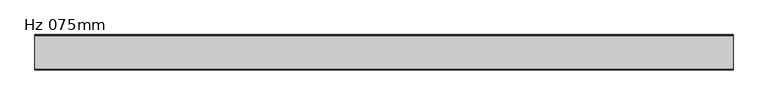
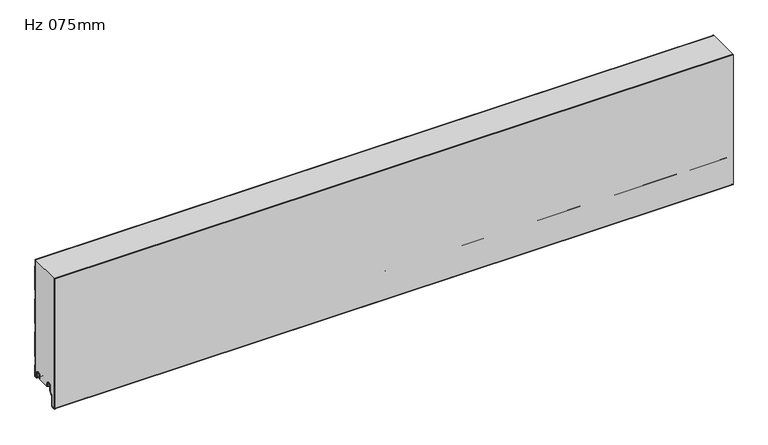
"""IFC4 building model written with IfcOpenShell, lengths in millimetres: plate geometry, KIP-MEX-KSS-1067-R19-CP-Hz-OP_SL : Hz 075mm."""

from ifc_helpers import new_model, si_unit, point, frame, frame_2d, origin, place, context, project, spatial, polyline, circle_curve, trimmed, segment, composite_curve, outline, extrude, source, transform, mapped, element, save
from ifc_brep_helpers import plane_surface, cylinder_surface, revolved_surface, advanced_brep


def hz_075mm_108744e1(model_context):
    return source(origin(), model_context, "Body", "SolidModel", [
        advanced_brep(
        [(-740.0, -17.0015159, 2.0313088), (-740.0, -18.0015191, 1.0313116), (-740.0, -19.0015105, 2.0313088), (-740.0, -19.0015105, 6.0315125), (-740.0, -18.0015159, 6.0315125), (-740.0, -18.0015159, 8.7237223), (-740.0, -14.7015202, 12.023718), (-740.0, -10.301529, 12.023718), (-740.0, -7.0015335, 8.7237225), (-740.0, -7.0015335, -1.6962564), (-740.0, -5.2315393, -3.4662506), (-740.0, -0.9999916, -3.4662506), (-740.0, -0.9999916, 21.034026), (-740.0, -2.2002307, 22.4196686), (-740.0, -2.2002307, 41.7948349), (-740.0, -1.0, 43.1804679), (-740.0, -1.0, 97.2338833), (-740.0, -2.2002307, 98.6195162), (-740.0, -2.2002307, 117.9946825), (-740.0, -1.0, 119.3803155), (-740.0, -1.0, 173.4337309), (-740.0, -2.2002307, 174.8193638), (-740.0, -2.2002307, 194.1945301), (-740.0, -1.0, 195.5801631), (-740.0, -1.0, 249.6335785), (-740.0, -2.2002307, 251.0192114), (-740.0, -2.2002307, 266.0), (-740.0, -1.2002307, 266.0), (-740.0, -1.2002307, 251.3920919), (-740.0, -0.3417885, 250.4010442), (-740.0, 0.0, 249.4844273), (-740.0, 0.0, 195.7293142), (-740.0, -0.3417885, 194.8126973), (-740.0, -1.2002307, 193.8216497), (-740.0, -1.2002307, 175.1922443), (-740.0, -0.3417885, 174.2011966), (-740.0, 0.0, 173.2845797), (-740.0, 0.0, 119.5294666), (-740.0, -0.3417885, 118.6128497), (-740.0, -1.2002307, 117.6218021), (-740.0, -1.2002307, 98.9923967), (-740.0, -0.3417885, 98.001349), (-740.0, 0.0, 97.0847321), (-740.0, 0.0, 43.329619), (-740.0, -0.3417885, 42.4130021), (-740.0, -1.2002307, 41.4219545), (-740.0, -1.2002307, 22.7925491), (-740.0, -0.3417885, 21.8015014), (-740.0, 0.0, 20.8847931), (-740.0, 8.4e-06, -3.0662545), (-740.0, -1.3999878, -4.4662506), (-740.0, -5.2315393, -4.4662506), (-740.0, -8.0015335, -1.6962564), (-740.0, -8.0015335, 8.7237225), (-740.0, -10.301529, 11.023718), (-740.0, -14.7015202, 11.023718), (-740.0, -17.0015159, 8.7237223), (740.0, -17.0015159, 2.0313088), (740.0, -17.0015159, 8.7237223), (740.0, -14.7015202, 11.023718), (740.0, -10.301529, 11.023718), (740.0, -8.0015335, 8.7237225), (740.0, -8.0015335, -1.6962564), (740.0, -5.2315393, -4.4662506), (740.0, -1.3999878, -4.4662506), (740.0, 8.4e-06, -3.0662545), (740.0, 8.4e-06, 20.8848845), (740.0, -0.3417885, 21.8015014), (740.0, -1.2002307, 22.7925491), (740.0, -1.2002307, 41.4219545), (740.0, -0.3417885, 42.4130021), (740.0, 0.0, 43.329619), (740.0, 0.0, 97.0847321), (740.0, -0.3417885, 98.001349), (740.0, -1.2002307, 98.9923967), (740.0, -1.2002307, 117.6218021), (740.0, -0.3417885, 118.6128497), (740.0, 0.0, 119.5294666), (740.0, 0.0, 173.2845797), (740.0, -0.3417885, 174.2011966), (740.0, -1.2002307, 175.1922443), (740.0, -1.2002307, 193.8216497), (740.0, -0.3417885, 194.8126973), (740.0, 0.0, 195.7293142), (740.0, 0.0, 249.4844273), (740.0, -0.3417885, 250.4010442), (740.0, -1.2002307, 251.3920919), (740.0, -1.2002307, 266.0), (740.0, -2.2002307, 266.0), (740.0, -2.2002307, 251.0192114), (740.0, -1.0, 249.6335785), (740.0, -1.0, 195.5801631), (740.0, -2.2002307, 194.1945301), (740.0, -2.2002307, 174.8193638), (740.0, -1.0, 173.4337309), (740.0, -1.0, 119.3803155), (740.0, -2.2002307, 117.9946825), (740.0, -2.2002307, 98.6195162), (740.0, -1.0, 97.2338833), (740.0, -1.0, 43.1804679), (740.0, -2.2002307, 41.7948349), (740.0, -2.2002307, 22.4196686), (740.0, -0.9999916, 21.034026), (740.0, -0.9999916, -3.4662506), (740.0, -5.2315393, -3.4662506), (740.0, -7.0015335, -1.6962564), (740.0, -7.0015335, 8.7237225), (740.0, -10.301529, 12.023718), (740.0, -14.7015202, 12.023718), (740.0, -18.0015159, 8.7237223), (740.0, -18.0015159, 6.0315125), (740.0, -19.0015105, 6.0315125), (740.0, -19.0015105, 2.0313088), (740.0, -18.0015192, 1.0313116)],
        [
            (0, 1, circle_curve(frame((-740.0, -18.0015132, 2.0313088), z_axis=(-1.0, 0.0, 0.0), x_axis=(0.0, 0.0, 1.0)), 0.9999973)),
            (1, 2, circle_curve(frame((-740.0, -18.0015133, 2.0313088), z_axis=(-1.0, 0.0, 0.0), x_axis=(0.0, 0.0, 1.0)), 0.9999972)),
            (2, 3),
            (3, 4),
            (4, 5),
            (5, 6, circle_curve(frame((-740.0, -14.7015202, 8.7237223), z_axis=(-1.0, 0.0, 0.0), x_axis=(0.0, 0.0, 1.0)), 3.2999957)),
            (6, 7),
            (7, 8, circle_curve(frame((-740.0, -10.301529, 8.7237225), z_axis=(-1.0, 0.0, 0.0), x_axis=(0.0, 0.0, 1.0)), 3.2999955)),
            (8, 9),
            (9, 10, circle_curve(frame((-740.0, -5.2315393, -1.6962564), z_axis=(1.0, 0.0, 0.0), x_axis=(0.0, 0.0, 1.0)), 1.7699942)),
            (10, 11),
            (11, 12),
            (12, 13),
            (13, 14),
            (14, 15),
            (15, 16),
            (16, 17),
            (17, 18),
            (18, 19),
            (19, 20),
            (20, 21),
            (21, 22),
            (22, 23),
            (23, 24),
            (24, 25),
            (25, 26),
            (26, 27),
            (27, 28),
            (28, 29),
            (29, 30, circle_curve(frame((-740.0, -1.3999972, 249.4844273), z_axis=(-1.0, 0.0, 0.0), x_axis=(0.0, 0.0, 1.0)), 1.3999972)),
            (30, 31),
            (31, 32, circle_curve(frame((-740.0, -1.3999972, 195.7293142), z_axis=(-1.0, 0.0, 0.0), x_axis=(0.0, 0.0, 1.0)), 1.3999972)),
            (32, 33),
            (33, 34),
            (34, 35),
            (35, 36, circle_curve(frame((-740.0, -1.3999972, 173.2845797), z_axis=(-1.0, 0.0, 0.0), x_axis=(0.0, 0.0, 1.0)), 1.3999972)),
            (36, 37),
            (37, 38, circle_curve(frame((-740.0, -1.3999972, 119.5294666), z_axis=(-1.0, 0.0, 0.0), x_axis=(0.0, 0.0, 1.0)), 1.3999972)),
            (38, 39),
            (39, 40),
            (40, 41),
            (41, 42, circle_curve(frame((-740.0, -1.3999972, 97.0847321), z_axis=(-1.0, 0.0, 0.0), x_axis=(0.0, 0.0, 1.0)), 1.3999972)),
            (42, 43),
            (43, 44, circle_curve(frame((-740.0, -1.3999972, 43.329619), z_axis=(-1.0, 0.0, 0.0), x_axis=(0.0, 0.0, 1.0)), 1.3999972)),
            (44, 45),
            (45, 46),
            (46, 47),
            (47, 48, circle_curve(frame((-740.0, -1.3999972, 20.8848845), z_axis=(-1.0, 0.0, 0.0), x_axis=(0.0, 0.0, 1.0)), 1.3999972)),
            (48, 49),
            (49, 50, circle_curve(frame((-740.0, -1.3999878, -3.0662545), z_axis=(-1.0, 0.0, 0.0), x_axis=(0.0, 0.0, 1.0)), 1.3999962)),
            (50, 51),
            (51, 52, circle_curve(frame((-740.0, -5.2315393, -1.6962564), z_axis=(-1.0, 0.0, 0.0), x_axis=(0.0, 0.0, 1.0)), 2.7699942)),
            (52, 53),
            (53, 54, circle_curve(frame((-740.0, -10.301529, 8.7237225), z_axis=(1.0, 0.0, 0.0), x_axis=(0.0, 0.0, 1.0)), 2.2999955)),
            (54, 55),
            (55, 56, circle_curve(frame((-740.0, -14.7015202, 8.7237223), z_axis=(1.0, 0.0, 0.0), x_axis=(0.0, 0.0, 1.0)), 2.2999957)),
            (56, 0),
            (57, 58),
            (58, 59, circle_curve(frame((740.0, -14.7015202, 8.7237223), z_axis=(-1.0, 0.0, 0.0), x_axis=(0.0, 0.0, 1.0)), 2.2999957)),
            (59, 60),
            (60, 61, circle_curve(frame((740.0, -10.301529, 8.7237225), z_axis=(-1.0, 0.0, 0.0), x_axis=(0.0, 0.0, 1.0)), 2.2999955)),
            (61, 62),
            (62, 63, circle_curve(frame((740.0, -5.2315393, -1.6962564), z_axis=(1.0, 0.0, 0.0), x_axis=(0.0, 0.0, 1.0)), 2.7699942)),
            (63, 64),
            (64, 65, circle_curve(frame((740.0, -1.3999878, -3.0662545), z_axis=(1.0, 0.0, 0.0), x_axis=(0.0, 0.0, 1.0)), 1.3999962)),
            (65, 66),
            (66, 67, circle_curve(frame((740.0, -1.3999972, 20.8848845), z_axis=(1.0, 0.0, 0.0), x_axis=(0.0, 0.0, 1.0)), 1.3999972)),
            (67, 68),
            (68, 69),
            (69, 70),
            (70, 71, circle_curve(frame((740.0, -1.3999972, 43.329619), z_axis=(1.0, 0.0, 0.0), x_axis=(0.0, 0.0, 1.0)), 1.3999972)),
            (71, 72),
            (72, 73, circle_curve(frame((740.0, -1.3999972, 97.0847321), z_axis=(1.0, 0.0, 0.0), x_axis=(0.0, 0.0, 1.0)), 1.3999972)),
            (73, 74),
            (74, 75),
            (75, 76),
            (76, 77, circle_curve(frame((740.0, -1.3999972, 119.5294666), z_axis=(1.0, 0.0, 0.0), x_axis=(0.0, 0.0, 1.0)), 1.3999972)),
            (77, 78),
            (78, 79, circle_curve(frame((740.0, -1.3999972, 173.2845797), z_axis=(1.0, 0.0, 0.0), x_axis=(0.0, 0.0, 1.0)), 1.3999972)),
            (79, 80),
            (80, 81),
            (81, 82),
            (82, 83, circle_curve(frame((740.0, -1.3999972, 195.7293142), z_axis=(1.0, 0.0, 0.0), x_axis=(0.0, 0.0, 1.0)), 1.3999972)),
            (83, 84),
            (84, 85, circle_curve(frame((740.0, -1.3999972, 249.4844273), z_axis=(1.0, 0.0, 0.0), x_axis=(0.0, 0.0, 1.0)), 1.3999972)),
            (85, 86),
            (86, 87),
            (87, 88),
            (88, 89),
            (89, 90),
            (90, 91),
            (91, 92),
            (92, 93),
            (93, 94),
            (94, 95),
            (95, 96),
            (96, 97),
            (97, 98),
            (98, 99),
            (99, 100),
            (100, 101),
            (101, 102),
            (102, 103),
            (103, 104),
            (104, 105, circle_curve(frame((740.0, -5.2315393, -1.6962564), z_axis=(-1.0, 0.0, 0.0), x_axis=(0.0, 0.0, 1.0)), 1.7699942)),
            (105, 106),
            (106, 107, circle_curve(frame((740.0, -10.301529, 8.7237225), z_axis=(1.0, 0.0, 0.0), x_axis=(0.0, 0.0, 1.0)), 3.2999955)),
            (107, 108),
            (108, 109, circle_curve(frame((740.0, -14.7015202, 8.7237223), z_axis=(1.0, 0.0, 0.0), x_axis=(0.0, 0.0, 1.0)), 3.2999957)),
            (109, 110),
            (110, 111),
            (111, 112),
            (112, 113, circle_curve(frame((740.0, -18.0015133, 2.0313088), z_axis=(1.0, 0.0, 0.0), x_axis=(0.0, 0.0, 1.0)), 0.9999972)),
            (113, 57, circle_curve(frame((740.0, -18.0015132, 2.0313088), z_axis=(1.0, 0.0, 0.0), x_axis=(0.0, 0.0, 1.0)), 0.9999973)),
            (56, 58),
            (57, 0),
            (55, 59),
            (54, 60),
            (53, 61),
            (52, 62),
            (51, 63),
            (50, 64),
            (49, 65),
            (48, 66),
            (47, 67),
            (46, 68),
            (45, 69),
            (44, 70),
            (43, 71),
            (42, 72),
            (41, 73),
            (40, 74),
            (39, 75),
            (38, 76),
            (37, 77),
            (36, 78),
            (35, 79),
            (34, 80),
            (33, 81),
            (32, 82),
            (31, 83),
            (30, 84),
            (29, 85),
            (28, 86),
            (27, 87),
            (88, 26),
            (25, 89),
            (24, 90),
            (23, 91),
            (22, 92),
            (21, 93),
            (20, 94),
            (19, 95),
            (18, 96),
            (17, 97),
            (16, 98),
            (15, 99),
            (14, 100),
            (13, 101),
            (12, 102),
            (11, 103),
            (10, 104),
            (9, 105),
            (8, 106),
            (7, 107),
            (6, 108),
            (5, 109),
            (4, 110),
            (3, 111),
            (2, 112),
            (1, 113),
        ],
        [
            plane_surface(frame((-740.0, 0.0, 533.4), z_axis=(-1.0, 0.0, 0.0), x_axis=(0.0, 1.0, 0.0))),
            plane_surface(frame((740.0, 0.0, 533.4), z_axis=(1.0, 0.0, 0.0), x_axis=(0.0, 1.0, 0.0))),
            plane_surface(frame((-740.0, -17.0015159, 2.0313088), z_axis=(0.0, 1.0, 0.0), x_axis=(1.0, 0.0, 0.0))),
            revolved_surface(polyline([(740.0, -14.7015202, 11.023718), (-740.0, -14.7015202, 11.023718)]), (-740.0, -14.7015202, 8.7237223), (1.0, 0.0, 0.0)),
            plane_surface(frame((-740.0, -14.7015202, 11.023718), z_axis=(0.0, 0.0, -1.0), x_axis=(1.0, 0.0, 0.0))),
            revolved_surface(polyline([(740.0, -10.301529, 11.023717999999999), (-740.0, -10.301529, 11.023717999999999)]), (-740.0, -10.301529, 8.7237225), (1.0, 0.0, 0.0)),
            plane_surface(frame((-740.0, -8.0015335, 8.7237225), z_axis=(0.0, -1.0, 0.0), x_axis=(1.0, 0.0, 0.0))),
            cylinder_surface(frame((-740.0, -5.2315393, -1.6962564), z_axis=(-1.0, 0.0, 0.0), x_axis=(0.0, 0.0, 1.0)), 2.7699942),
            plane_surface(frame((-740.0, -5.2315393, -4.4662506), z_axis=(0.0, 0.0, -1.0), x_axis=(1.0, 0.0, 0.0))),
            cylinder_surface(frame((-740.0, -1.3999878, -3.0662545), z_axis=(-1.0, 0.0, 0.0), x_axis=(0.0, 0.0, 1.0)), 1.3999962),
            plane_surface(frame((-740.0, 8.4e-06, -3.0662545), z_axis=(0.0, 1.0, 0.0), x_axis=(1.0, 0.0, 0.0))),
            cylinder_surface(frame((-740.0, -1.3999972, 20.8848845), z_axis=(-1.0, 0.0, 0.0), x_axis=(0.0, 0.0, 1.0)), 1.3999972),
            plane_surface(frame((-740.0, -0.3417885, 21.8015014), z_axis=(0.0, 0.755864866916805, 0.6547276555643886), x_axis=(1.0, 0.0, 0.0))),
            plane_surface(frame((-740.0, -1.2002307, 32.1072518), z_axis=(0.0, 1.0, 0.0), x_axis=(1.0, 0.0, 0.0))),
            plane_surface(frame((-740.0, -1.2002307, 41.4219545), z_axis=(0.0, 0.755864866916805, -0.6547276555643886), x_axis=(1.0, 0.0, 0.0))),
            cylinder_surface(frame((-740.0, -1.3999972, 43.329619), z_axis=(-1.0, 0.0, 0.0), x_axis=(0.0, 0.0, 1.0)), 1.3999972),
            plane_surface(frame((-740.0, 0.0, 43.329619), z_axis=(0.0, 1.0, 0.0), x_axis=(1.0, 0.0, 0.0))),
            cylinder_surface(frame((-740.0, -1.3999972, 97.0847321), z_axis=(-1.0, 0.0, 0.0), x_axis=(0.0, 0.0, 1.0)), 1.3999972),
            plane_surface(frame((-740.0, -0.3417885, 98.001349), z_axis=(0.0, 0.755864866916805, 0.6547276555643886), x_axis=(1.0, 0.0, 0.0))),
            plane_surface(frame((-740.0, -1.2002307, 108.3070994), z_axis=(0.0, 1.0, 0.0), x_axis=(1.0, 0.0, 0.0))),
            plane_surface(frame((-740.0, -1.2002307, 117.6218021), z_axis=(0.0, 0.755864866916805, -0.6547276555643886), x_axis=(1.0, 0.0, 0.0))),
            cylinder_surface(frame((-740.0, -1.3999972, 119.5294666), z_axis=(-1.0, 0.0, 0.0), x_axis=(0.0, 0.0, 1.0)), 1.3999972),
            plane_surface(frame((-740.0, 0.0, 119.5294666), z_axis=(0.0, 1.0, 0.0), x_axis=(1.0, 0.0, 0.0))),
            cylinder_surface(frame((-740.0, -1.3999972, 173.2845797), z_axis=(-1.0, 0.0, 0.0), x_axis=(0.0, 0.0, 1.0)), 1.3999972),
            plane_surface(frame((-740.0, -0.3417885, 174.2011966), z_axis=(0.0, 0.755864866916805, 0.6547276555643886), x_axis=(1.0, 0.0, 0.0))),
            plane_surface(frame((-740.0, -1.2002307, 184.506947), z_axis=(0.0, 1.0, 0.0), x_axis=(1.0, 0.0, 0.0))),
            plane_surface(frame((-740.0, -1.2002307, 193.8216497), z_axis=(0.0, 0.755864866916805, -0.6547276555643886), x_axis=(1.0, 0.0, 0.0))),
            cylinder_surface(frame((-740.0, -1.3999972, 195.7293142), z_axis=(-1.0, 0.0, 0.0), x_axis=(0.0, 0.0, 1.0)), 1.3999972),
            plane_surface(frame((-740.0, 0.0, 195.7293142), z_axis=(0.0, 1.0, 0.0), x_axis=(1.0, 0.0, 0.0))),
            cylinder_surface(frame((-740.0, -1.3999972, 249.4844273), z_axis=(-1.0, 0.0, 0.0), x_axis=(0.0, 0.0, 1.0)), 1.3999972),
            plane_surface(frame((-740.0, -0.3417885, 250.4010442), z_axis=(0.0, 0.755864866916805, 0.6547276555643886), x_axis=(1.0, 0.0, 0.0))),
            plane_surface(frame((-740.0, -1.2002307, 260.7067946), z_axis=(0.0, 1.0, 0.0), x_axis=(1.0, 0.0, 0.0))),
            plane_surface(frame((-740.0, -2.2002307, 270.3943777), z_axis=(0.0, -1.0, 0.0), x_axis=(1.0, 0.0, 0.0))),
            plane_surface(frame((-740.0, -2.2002307, 251.0192114), z_axis=(0.0, -0.755864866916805, -0.6547276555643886), x_axis=(1.0, 0.0, 0.0))),
            plane_surface(frame((-740.0, -1.0, 249.6335785), z_axis=(0.0, -1.0, 0.0), x_axis=(1.0, 0.0, 0.0))),
            plane_surface(frame((-740.0, -1.0, 195.5801631), z_axis=(0.0, -0.755864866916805, 0.6547276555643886), x_axis=(1.0, 0.0, 0.0))),
            plane_surface(frame((-740.0, -2.2002307, 194.1945301), z_axis=(0.0, -1.0, 0.0), x_axis=(1.0, 0.0, 0.0))),
            plane_surface(frame((-740.0, -2.2002307, 174.8193638), z_axis=(0.0, -0.755864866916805, -0.6547276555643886), x_axis=(1.0, 0.0, 0.0))),
            plane_surface(frame((-740.0, -1.0, 173.4337309), z_axis=(0.0, -1.0, 0.0), x_axis=(1.0, 0.0, 0.0))),
            plane_surface(frame((-740.0, -1.0, 119.3803155), z_axis=(0.0, -0.755864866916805, 0.6547276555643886), x_axis=(1.0, 0.0, 0.0))),
            plane_surface(frame((-740.0, -2.2002307, 117.9946825), z_axis=(0.0, -1.0, 0.0), x_axis=(1.0, 0.0, 0.0))),
            plane_surface(frame((-740.0, -2.2002307, 98.6195162), z_axis=(0.0, -0.755864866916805, -0.6547276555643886), x_axis=(1.0, 0.0, 0.0))),
            plane_surface(frame((-740.0, -1.0, 97.2338833), z_axis=(0.0, -1.0, 0.0), x_axis=(1.0, 0.0, 0.0))),
            plane_surface(frame((-740.0, -1.0, 43.1804679), z_axis=(0.0, -0.755864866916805, 0.6547276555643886), x_axis=(1.0, 0.0, 0.0))),
            plane_surface(frame((-740.0, -2.2002307, 41.7948349), z_axis=(0.0, -1.0, 0.0), x_axis=(1.0, 0.0, 0.0))),
            plane_surface(frame((-740.0, -2.2002307, 22.4196686), z_axis=(0.0, -0.755864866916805, -0.6547276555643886), x_axis=(1.0, 0.0, 0.0))),
            plane_surface(frame((-740.0, -0.9999916, 21.034026), z_axis=(0.0, -1.0, 0.0), x_axis=(1.0, 0.0, 0.0))),
            plane_surface(frame((-740.0, -0.9999916, -3.4662506), z_axis=(0.0, 0.0, 1.0), x_axis=(1.0, 0.0, 0.0))),
            revolved_surface(polyline([(740.0, -5.2315393, 0.07373779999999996), (-740.0, -5.2315393, 0.07373779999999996)]), (-740.0, -5.2315393, -1.6962564), (1.0, 0.0, 0.0)),
            plane_surface(frame((-740.0, -7.0015335, -1.6962564), z_axis=(0.0, 1.0, 0.0), x_axis=(1.0, 0.0, 0.0))),
            cylinder_surface(frame((-740.0, -10.301529, 8.7237225), z_axis=(-1.0, 0.0, 0.0), x_axis=(0.0, 0.0, 1.0)), 3.2999955),
            plane_surface(frame((-740.0, -10.301529, 12.023718), z_axis=(0.0, 0.0, 1.0), x_axis=(1.0, 0.0, 0.0))),
            cylinder_surface(frame((-740.0, -14.7015202, 8.7237223), z_axis=(-1.0, 0.0, 0.0), x_axis=(0.0, 0.0, 1.0)), 3.2999957),
            plane_surface(frame((-740.0, -18.0015159, 8.7237223), z_axis=(0.0, -1.0, 0.0), x_axis=(1.0, 0.0, 0.0))),
            plane_surface(frame((-740.0, -18.0015159, 6.0315125), z_axis=(0.0, 0.0, 1.0), x_axis=(1.0, 0.0, 0.0))),
            plane_surface(frame((-740.0, -19.0015105, 6.0315125), z_axis=(0.0, -1.0, 0.0), x_axis=(1.0, 0.0, 0.0))),
            cylinder_surface(frame((-740.0, -18.0015133, 2.0313088), z_axis=(-1.0, 0.0, 0.0), x_axis=(0.0, 0.0, 1.0)), 0.9999972),
            cylinder_surface(frame((-740.0, -18.0015132, 2.0313088), z_axis=(-1.0, 0.0, 0.0), x_axis=(0.0, 0.0, 1.0)), 0.9999973),
            plane_surface(frame((740.0, 10.0, 266.0), z_axis=(0.0, 0.0, 1.0), x_axis=(-1.0, 0.0, 0.0))),
        ],
        [
            (0, [[1, 2, 3, 4, 5, 6, 7, 8, 9, 10, 11, 12, 13, 14, 15, 16, 17, 18, 19, 20, 21, 22, 23, 24, 25, 26, 27, 28, 29, 30, 31, 32, 33, 34, 35, 36, 37, 38, 39, 40, 41, 42, 43, 44, 45, 46, 47, 48, 49, 50, 51, 52, 53, 54, 55, 56, 57]]),
            (1, [[58, 59, 60, 61, 62, 63, 64, 65, 66, 67, 68, 69, 70, 71, 72, 73, 74, 75, 76, 77, 78, 79, 80, 81, 82, 83, 84, 85, 86, 87, 88, 89, 90, 91, 92, 93, 94, 95, 96, 97, 98, 99, 100, 101, 102, 103, 104, 105, 106, 107, 108, 109, 110, 111, 112, 113, 114]]),
            (2, [[115, -58, 116, -57]]),
            (3, [[117, -59, -115, -56]]),
            (4, [[118, -60, -117, -55]]),
            (5, [[119, -61, -118, -54]]),
            (6, [[120, -62, -119, -53]]),
            (7, [[121, -63, -120, -52]]),
            (8, [[122, -64, -121, -51]]),
            (9, [[123, -65, -122, -50]]),
            (10, [[124, -66, -123, -49]]),
            (11, [[125, -67, -124, -48]]),
            (12, [[126, -68, -125, -47]]),
            (13, [[127, -69, -126, -46]]),
            (14, [[128, -70, -127, -45]]),
            (15, [[129, -71, -128, -44]]),
            (16, [[130, -72, -129, -43]]),
            (17, [[131, -73, -130, -42]]),
            (18, [[132, -74, -131, -41]]),
            (19, [[133, -75, -132, -40]]),
            (20, [[134, -76, -133, -39]]),
            (21, [[135, -77, -134, -38]]),
            (22, [[136, -78, -135, -37]]),
            (23, [[137, -79, -136, -36]]),
            (24, [[138, -80, -137, -35]]),
            (25, [[139, -81, -138, -34]]),
            (26, [[140, -82, -139, -33]]),
            (27, [[141, -83, -140, -32]]),
            (28, [[142, -84, -141, -31]]),
            (29, [[143, -85, -142, -30]]),
            (30, [[144, -86, -143, -29]]),
            (31, [[-28, 145, -87, -144]]),
            (32, [[-89, 146, -26, 147]]),
            (33, [[148, -90, -147, -25]]),
            (34, [[149, -91, -148, -24]]),
            (35, [[150, -92, -149, -23]]),
            (36, [[151, -93, -150, -22]]),
            (37, [[152, -94, -151, -21]]),
            (38, [[153, -95, -152, -20]]),
            (39, [[154, -96, -153, -19]]),
            (40, [[155, -97, -154, -18]]),
            (41, [[156, -98, -155, -17]]),
            (42, [[157, -99, -156, -16]]),
            (43, [[158, -100, -157, -15]]),
            (44, [[159, -101, -158, -14]]),
            (45, [[160, -102, -159, -13]]),
            (46, [[161, -103, -160, -12]]),
            (47, [[162, -104, -161, -11]]),
            (48, [[163, -105, -162, -10]]),
            (49, [[164, -106, -163, -9]]),
            (50, [[165, -107, -164, -8]]),
            (51, [[166, -108, -165, -7]]),
            (52, [[167, -109, -166, -6]]),
            (53, [[168, -110, -167, -5]]),
            (54, [[169, -111, -168, -4]]),
            (55, [[170, -112, -169, -3]]),
            (56, [[171, -113, -170, -2]]),
            (57, [[-116, -114, -171, -1]]),
            (58, [[-146, -88, -145, -27]]),
        ],
    ),
        extrude(outline(composite_curve([segment(trimmed(circle_curve(frame_2d((-71.4297607, -32.4521176)), 3.5702393), [point((-71.1184903, -36.008762))], [point((-75.0, -32.4521176))], False, "CARTESIAN"), True, "CONTINUOUS"), segment(polyline([(-75.0, -32.4521176), (-75.0, 266.0), (-73.9993606, 266.0), (-73.9993606, -32.509446)]), True, "CONTINUOUS"), segment(trimmed(circle_curve(frame_2d((-71.4297607, -32.4521176)), 2.5702393), [point((-73.9993606, -32.509446))], [point((-71.2056751, -35.0125699))], True, "CARTESIAN"), True, "CONTINUOUS"), segment(polyline([(-71.2056751, -35.0125699), (-66.2238542, -34.5765709)]), True, "CONTINUOUS"), segment(trimmed(circle_curve(frame_2d((-66.7052448, -31.9198392)), 2.6999926), [point((-66.2238542, -34.5765709))], [point((-64.0052522, -31.9198392))], True, "CARTESIAN"), True, "CONTINUOUS"), segment(polyline([(-64.0052522, -31.9198392), (-64.0052522, -9.8247096), (-58.5031811, -4.3226385)]), True, "CONTINUOUS"), segment(trimmed(circle_curve(frame_2d((-59.7052588, -3.1205608)), 1.6999946), [point((-58.5031811, -4.3226385))], [point((-58.0052642, -3.1205608))], True, "CARTESIAN"), True, "CONTINUOUS"), segment(polyline([(-58.0052642, -3.1205608), (-58.0052642, 8.6903283)]), True, "CONTINUOUS"), segment(trimmed(circle_curve(frame_2d((-54.6552689, 8.6903283)), 3.3499953), [point((-58.0052642, 8.6903283))], [point((-54.6552689, 12.0403236))], False, "CARTESIAN"), True, "CONTINUOUS"), segment(polyline([(-54.6552689, 12.0403236), (-50.2552777, 12.0403236)]), True, "CONTINUOUS"), segment(trimmed(circle_curve(frame_2d((-50.2552777, 8.6903283)), 3.3499953), [point((-50.2552777, 12.0403236))], [point((-46.9052824, 8.6903283))], False, "CARTESIAN"), True, "CONTINUOUS"), segment(polyline([(-46.9052824, 8.6903283), (-46.9052824, 5.9912173), (-45.5068035, 5.9912173), (-45.5068035, 2.2328239)]), True, "CONTINUOUS"), segment(trimmed(circle_curve(frame_2d((-46.7068002, 2.2313092)), 1.1999976), [point((-45.5068035, 2.2328239))], [point((-46.6762782, 1.0316999))], False, "CARTESIAN"), True, "CONTINUOUS"), segment(trimmed(circle_curve(frame_2d((-46.7068002, 2.2313092)), 1.1999976), [point((-46.6762782, 1.0316999))], [point((-47.9052824, 2.1710221))], False, "CARTESIAN"), True, "CONTINUOUS"), segment(polyline([(-47.9052824, 2.1710221), (-47.9052824, 8.6903283)]), True, "CONTINUOUS"), segment(trimmed(circle_curve(frame_2d((-50.2552777, 8.6903283)), 2.3499953), [point((-47.9052824, 8.6903283))], [point((-50.2552777, 11.0403236))], True, "CARTESIAN"), True, "CONTINUOUS"), segment(polyline([(-50.2552777, 11.0403236), (-54.6552689, 11.0403236)]), True, "CONTINUOUS"), segment(trimmed(circle_curve(frame_2d((-54.6552689, 8.6903283)), 2.3499953), [point((-54.6552689, 11.0403236))], [point((-57.0052642, 8.6903283))], True, "CARTESIAN"), True, "CONTINUOUS"), segment(polyline([(-57.0052642, 8.6903283), (-57.0052642, -3.1205608)]), True, "CONTINUOUS"), segment(trimmed(circle_curve(frame_2d((-59.7052588, -3.1205608)), 2.6999946), [point((-57.0052642, -3.1205608))], [point((-57.7960743, -5.0297453))], False, "CARTESIAN"), True, "CONTINUOUS"), segment(polyline([(-57.7960743, -5.0297453), (-62.6244918, -9.8581627)]), True, "CONTINUOUS"), segment(trimmed(circle_curve(frame_2d((-61.7052548, -10.7773997)), 1.2999974), [point((-62.6244918, -9.8581627))], [point((-63.0052522, -10.7773997))], True, "CARTESIAN"), True, "CONTINUOUS"), segment(polyline([(-63.0052522, -10.7773997), (-63.0052522, -31.9198392)]), True, "CONTINUOUS"), segment(trimmed(circle_curve(frame_2d((-66.7052448, -31.9198392)), 3.6999926), [point((-63.0052522, -31.9198392))], [point((-66.0944437, -35.5690675))], False, "CARTESIAN"), True, "CONTINUOUS"), segment(polyline([(-66.0944437, -35.5690675), (-71.1184903, -36.008762)]), True, "CONTINUOUS")], self_intersect=False)), frame((-740.0, 0.0, 0.0), z_axis=(1.0, 0.0, 0.0), x_axis=(0.0, 1.0, 0.0)), (0.0, 0.0, 1.0), 1480.0),
        advanced_brep(
        [(-740.0, -46.670875, 1.0316999), (-740.0, -45.5014003, 2.2328239), (-740.0, -45.5014003, 5.9912173), (-740.0, -46.8998791, 5.9912173), (-740.0, -46.8998791, 8.6903283), (-740.0, -50.2498744, 12.0403236), (-740.0, -54.6498656, 12.0403236), (-740.0, -57.9998609, 8.6903283), (-740.0, -57.9998609, -3.1205608), (-740.0, -58.4977778, -4.3226385), (-740.0, -63.9998489, -9.8247096), (-740.0, -63.9998489, -31.9198392), (-740.0, -66.2184509, -34.5765709), (-740.0, -71.2002718, -35.0125699), (-740.0, -73.9945967, -32.4521176), (-740.0, -74.0, 266.0), (-740.0, -2.2002307, 266.0), (-740.0, -2.2002307, 251.0192115), (-740.0, -1.0, 249.6335785), (-740.0, -1.0, 195.5801631), (-740.0, -2.2002307, 194.1945302), (-740.0, -2.2002307, 174.8193639), (-740.0, -1.0, 173.4337309), (-740.0, -1.0, 119.3803155), (-740.0, -2.2002307, 117.9946826), (-740.0, -2.2002307, 98.6195163), (-740.0, -1.0, 97.2338833), (-740.0, -1.0, 43.1804679), (-740.0, -2.2002307, 41.794835), (-740.0, -2.2002307, 22.4196687), (-740.0, -0.9999916, 21.034026), (-740.0, -0.9999916, -3.4662506), (-740.0, -5.2315389, -3.4662506), (-740.0, -7.0015331, -1.6962564), (-740.0, -7.0015331, 8.7237222), (-740.0, -10.301529, 12.023718), (-740.0, -14.7015202, 12.023718), (-740.0, -18.0015159, 8.7237223), (-740.0, -18.0015159, 6.0315125), (-740.0, -19.0015105, 6.0315125), (-740.0, -19.0015105, 2.0313089), (-740.0, -18.0015192, 1.0313117), (-740.0, -19.0328308, 0.0), (-740.0, -45.6391751, 0.0), (740.0, -46.670875, 1.0316999), (740.0, -45.6391751, 0.0), (740.0, -19.0328308, 0.0), (740.0, -18.0015192, 1.0313117), (740.0, -19.0015105, 2.0313089), (740.0, -19.0015105, 6.0315125), (740.0, -18.0015159, 6.0315125), (740.0, -18.0015159, 8.7237223), (740.0, -14.7015202, 12.023718), (740.0, -10.301529, 12.023718), (740.0, -7.0015331, 8.7237222), (740.0, -7.0015331, -1.6962564), (740.0, -5.2315389, -3.4662506), (740.0, -0.9999916, -3.4662506), (740.0, -0.9999916, 21.034026), (740.0, -2.2002307, 22.4196687), (740.0, -2.2002307, 41.794835), (740.0, -1.0, 43.1804679), (740.0, -1.0, 97.2338833), (740.0, -2.2002307, 98.6195163), (740.0, -2.2002307, 117.9946826), (740.0, -1.0, 119.3803155), (740.0, -1.0, 173.4337309), (740.0, -2.2002307, 174.8193639), (740.0, -2.2002307, 194.1945302), (740.0, -1.0, 195.5801631), (740.0, -1.0, 249.6335785), (740.0, -2.2002307, 251.0192115), (740.0, -2.2002307, 266.0), (740.0, -74.0, 266.0), (740.0, -74.0, -32.4521176), (740.0, -71.2002718, -35.0125699), (740.0, -66.2184509, -34.5765709), (740.0, -63.9998489, -31.9198392), (740.0, -63.9998489, -9.8247096), (740.0, -58.4977778, -4.3226385), (740.0, -57.9998609, -3.1205608), (740.0, -57.9998609, 8.6903283), (740.0, -54.6498656, 12.0403236), (740.0, -50.2498744, 12.0403236), (740.0, -46.8998791, 8.6903283), (740.0, -46.8998791, 5.9912173), (740.0, -45.5014003, 5.9912173), (740.0, -45.5014003, 2.2328239)],
        [
            (0, 1, circle_curve(frame((-740.0, -46.7013969, 2.2313092), z_axis=(1.0, 0.0, 0.0), x_axis=(0.0, 0.0, -1.0)), 1.1999976)),
            (1, 2),
            (2, 3),
            (3, 4),
            (4, 5, circle_curve(frame((-740.0, -50.2498744, 8.6903283), z_axis=(1.0, 0.0, 0.0), x_axis=(0.0, 0.0, -1.0)), 3.3499953)),
            (5, 6),
            (6, 7, circle_curve(frame((-740.0, -54.6498656, 8.6903283), z_axis=(1.0, 0.0, 0.0), x_axis=(0.0, 0.0, -1.0)), 3.3499953)),
            (7, 8),
            (8, 9, circle_curve(frame((-740.0, -59.6998555, -3.1205608), z_axis=(-1.0, 0.0, 0.0), x_axis=(0.0, 0.0, -1.0)), 1.6999946)),
            (9, 10),
            (10, 11),
            (11, 12, circle_curve(frame((-740.0, -66.6998415, -31.9198392), z_axis=(-1.0, 0.0, 0.0), x_axis=(0.0, 0.0, -1.0)), 2.6999926)),
            (12, 13),
            (13, 14, circle_curve(frame((-740.0, -71.4243575, -32.4521176), z_axis=(-1.0, 0.0, 0.0), x_axis=(0.0, 0.0, -1.0)), 2.5702393)),
            (14, 15),
            (15, 16),
            (16, 17),
            (17, 18),
            (18, 19),
            (19, 20),
            (20, 21),
            (21, 22),
            (22, 23),
            (23, 24),
            (24, 25),
            (25, 26),
            (26, 27),
            (27, 28),
            (28, 29),
            (29, 30),
            (30, 31),
            (31, 32),
            (32, 33, circle_curve(frame((-740.0, -5.2315389, -1.6962564), z_axis=(-1.0, 0.0, 0.0), x_axis=(0.0, 0.0, -1.0)), 1.7699942)),
            (33, 34),
            (34, 35, circle_curve(frame((-740.0, -10.301529, 8.7237222), z_axis=(1.0, 0.0, 0.0), x_axis=(0.0, 0.0, -1.0)), 3.2999959)),
            (35, 36),
            (36, 37, circle_curve(frame((-740.0, -14.7015202, 8.7237223), z_axis=(1.0, 0.0, 0.0), x_axis=(0.0, 0.0, -1.0)), 3.2999957)),
            (37, 38),
            (38, 39),
            (39, 40),
            (40, 41, circle_curve(frame((-740.0, -18.0015133, 2.0313089), z_axis=(1.0, 0.0, 0.0), x_axis=(0.0, 0.0, -1.0)), 0.9999972)),
            (41, 42),
            (42, 43),
            (43, 0),
            (44, 45),
            (45, 46),
            (46, 47),
            (47, 48, circle_curve(frame((740.0, -18.0015133, 2.0313089), z_axis=(-1.0, 0.0, 0.0), x_axis=(0.0, 0.0, -1.0)), 0.9999972)),
            (48, 49),
            (49, 50),
            (50, 51),
            (51, 52, circle_curve(frame((740.0, -14.7015202, 8.7237223), z_axis=(-1.0, 0.0, 0.0), x_axis=(0.0, 0.0, -1.0)), 3.2999957)),
            (52, 53),
            (53, 54, circle_curve(frame((740.0, -10.301529, 8.7237222), z_axis=(-1.0, 0.0, 0.0), x_axis=(0.0, 0.0, -1.0)), 3.2999959)),
            (54, 55),
            (55, 56, circle_curve(frame((740.0, -5.2315389, -1.6962564), z_axis=(1.0, 0.0, 0.0), x_axis=(0.0, 0.0, -1.0)), 1.7699942)),
            (56, 57),
            (57, 58),
            (58, 59),
            (59, 60),
            (60, 61),
            (61, 62),
            (62, 63),
            (63, 64),
            (64, 65),
            (65, 66),
            (66, 67),
            (67, 68),
            (68, 69),
            (69, 70),
            (70, 71),
            (71, 72),
            (72, 73),
            (73, 74),
            (74, 75, circle_curve(frame((740.0, -71.4243575, -32.4521176), z_axis=(1.0, 0.0, 0.0), x_axis=(0.0, 0.0, -1.0)), 2.5702393)),
            (75, 76),
            (76, 77, circle_curve(frame((740.0, -66.6998415, -31.9198392), z_axis=(1.0, 0.0, 0.0), x_axis=(0.0, 0.0, -1.0)), 2.6999926)),
            (77, 78),
            (78, 79),
            (79, 80, circle_curve(frame((740.0, -59.6998555, -3.1205608), z_axis=(1.0, 0.0, 0.0), x_axis=(0.0, 0.0, -1.0)), 1.6999946)),
            (80, 81),
            (81, 82, circle_curve(frame((740.0, -54.6498656, 8.6903283), z_axis=(-1.0, 0.0, 0.0), x_axis=(0.0, 0.0, -1.0)), 3.3499953)),
            (82, 83),
            (83, 84, circle_curve(frame((740.0, -50.2498744, 8.6903283), z_axis=(-1.0, 0.0, 0.0), x_axis=(0.0, 0.0, -1.0)), 3.3499953)),
            (84, 85),
            (85, 86),
            (86, 87),
            (87, 44, circle_curve(frame((740.0, -46.7013969, 2.2313092), z_axis=(-1.0, 0.0, 0.0), x_axis=(0.0, 0.0, -1.0)), 1.1999976)),
            (41, 47),
            (46, 42),
            (40, 48),
            (39, 49),
            (38, 50),
            (37, 51),
            (36, 52),
            (35, 53),
            (34, 54),
            (33, 55),
            (32, 56),
            (31, 57),
            (30, 58),
            (29, 59),
            (28, 60),
            (27, 61),
            (26, 62),
            (25, 63),
            (24, 64),
            (23, 65),
            (22, 66),
            (21, 67),
            (20, 68),
            (19, 69),
            (18, 70),
            (17, 71),
            (16, 72),
            (15, 73),
            (43, 45),
            (44, 0),
            (14, 74),
            (13, 75),
            (12, 76),
            (11, 77),
            (10, 78),
            (9, 79),
            (8, 80),
            (7, 81),
            (6, 82),
            (5, 83),
            (4, 84),
            (3, 85),
            (2, 86),
            (1, 87),
        ],
        [
            plane_surface(frame((-740.0, -74.0, 533.4), z_axis=(-1.0, 0.0, 0.0), x_axis=(0.0, -1.0, 0.0))),
            plane_surface(frame((740.0, -74.0, 533.4), z_axis=(1.0, 0.0, 0.0), x_axis=(0.0, -1.0, 0.0))),
            plane_surface(frame((-740.0, -19.0328308, 0.0), z_axis=(0.0, 0.7071067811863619, -0.7071067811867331), x_axis=(1.0, 0.0, 0.0))),
            revolved_surface(polyline([(740.0, -18.0015133, 1.0313116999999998), (-740.0, -18.0015133, 1.0313116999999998)]), (-740.0, -18.0015133, 2.0313089), (1.0, 0.0, 0.0)),
            plane_surface(frame((-740.0, -19.0015105, 2.0313089), z_axis=(0.0, 1.0, 0.0), x_axis=(1.0, 0.0, 0.0))),
            plane_surface(frame((-740.0, -19.0015105, 6.0315125), z_axis=(0.0, 0.0, -1.0), x_axis=(1.0, 0.0, 0.0))),
            plane_surface(frame((-740.0, -18.0015159, 6.0315125), z_axis=(0.0, 1.0, 0.0), x_axis=(1.0, 0.0, 0.0))),
            revolved_surface(polyline([(740.0, -14.7015202, 5.4237266), (-740.0, -14.7015202, 5.4237266)]), (-740.0, -14.7015202, 8.7237223), (1.0, 0.0, 0.0)),
            plane_surface(frame((-740.0, -14.7015202, 12.023718), z_axis=(0.0, 0.0, -1.0), x_axis=(1.0, 0.0, 0.0))),
            revolved_surface(polyline([(740.0, -10.301529, 5.423726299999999), (-740.0, -10.301529, 5.423726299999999)]), (-740.0, -10.301529, 8.7237222), (1.0, 0.0, 0.0)),
            plane_surface(frame((-740.0, -7.0015331, 8.7237222), z_axis=(0.0, -1.0, 0.0), x_axis=(1.0, 0.0, 0.0))),
            cylinder_surface(frame((-740.0, -5.2315389, -1.6962564), z_axis=(-1.0, 0.0, 0.0), x_axis=(0.0, 0.0, -1.0)), 1.7699942),
            plane_surface(frame((-740.0, -5.2315389, -3.4662506), z_axis=(0.0, 0.0, -1.0), x_axis=(1.0, 0.0, 0.0))),
            plane_surface(frame((-740.0, -0.9999916, -3.4662506), z_axis=(0.0, 1.0, 0.0), x_axis=(1.0, 0.0, 0.0))),
            plane_surface(frame((-740.0, -0.9999916, 21.034026), z_axis=(0.0, 0.7558648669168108, 0.6547276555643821), x_axis=(1.0, 0.0, 0.0))),
            plane_surface(frame((-740.0, -2.2002307, 22.4196687), z_axis=(0.0, 1.0, 0.0), x_axis=(1.0, 0.0, 0.0))),
            plane_surface(frame((-740.0, -2.2002307, 41.794835), z_axis=(0.0, 0.7558648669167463, -0.6547276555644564), x_axis=(1.0, 0.0, 0.0))),
            plane_surface(frame((-740.0, -1.0, 43.1804679), z_axis=(0.0, 1.0, 0.0), x_axis=(1.0, 0.0, 0.0))),
            plane_surface(frame((-740.0, -1.0, 97.2338833), z_axis=(0.0, 0.7558648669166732, 0.6547276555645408), x_axis=(1.0, 0.0, 0.0))),
            plane_surface(frame((-740.0, -2.2002307, 98.6195163), z_axis=(0.0, 1.0, 0.0), x_axis=(1.0, 0.0, 0.0))),
            plane_surface(frame((-740.0, -2.2002307, 117.9946826), z_axis=(0.0, 0.7558648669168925, -0.6547276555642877), x_axis=(1.0, 0.0, 0.0))),
            plane_surface(frame((-740.0, -1.0, 119.3803155), z_axis=(0.0, 1.0, 0.0), x_axis=(1.0, 0.0, 0.0))),
            plane_surface(frame((-740.0, -1.0, 173.4337309), z_axis=(0.0, 0.7558648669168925, 0.6547276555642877), x_axis=(1.0, 0.0, 0.0))),
            plane_surface(frame((-740.0, -2.2002307, 174.8193639), z_axis=(0.0, 1.0, 0.0), x_axis=(1.0, 0.0, 0.0))),
            plane_surface(frame((-740.0, -2.2002307, 194.1945302), z_axis=(0.0, 0.7558648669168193, -0.6547276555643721), x_axis=(1.0, 0.0, 0.0))),
            plane_surface(frame((-740.0, -1.0, 195.5801631), z_axis=(0.0, 1.0, 0.0), x_axis=(1.0, 0.0, 0.0))),
            plane_surface(frame((-740.0, -1.0, 249.6335785), z_axis=(0.0, 0.7558648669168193, 0.6547276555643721), x_axis=(1.0, 0.0, 0.0))),
            plane_surface(frame((-740.0, -2.2002307, 251.0192115), z_axis=(0.0, 1.0, 0.0), x_axis=(1.0, 0.0, 0.0))),
            plane_surface(frame((740.0, 10.0, 266.0), z_axis=(0.0, 0.0, 1.0), x_axis=(-1.0, 0.0, 0.0))),
            plane_surface(frame((-740.0, -46.670875, 1.0316999), z_axis=(0.0, -0.7071067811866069, -0.7071067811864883), x_axis=(1.0, 0.0, 0.0))),
            plane_surface(frame((-740.0, -74.0, 1024.665622), z_axis=(0.0, -1.0, 0.0), x_axis=(1.0, 0.0, 0.0))),
            cylinder_surface(frame((-740.0, -71.4243575, -32.4521176), z_axis=(-1.0, 0.0, 0.0), x_axis=(0.0, 0.0, -1.0)), 2.5702393),
            plane_surface(frame((-740.0, -45.6391751, 0.0), z_axis=(0.0, 0.0, -1.0), x_axis=(1.0, 0.0, 0.0))),
            plane_surface(frame((-740.0, -71.2002718, -35.0125699), z_axis=(0.0, 0.08718474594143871, -0.9961921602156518), x_axis=(1.0, 0.0, 0.0))),
            cylinder_surface(frame((-740.0, -66.6998415, -31.9198392), z_axis=(-1.0, 0.0, 0.0), x_axis=(0.0, 0.0, -1.0)), 2.6999926),
            plane_surface(frame((-740.0, -63.9998489, -31.9198392), z_axis=(0.0, 1.0, 0.0), x_axis=(1.0, 0.0, 0.0))),
            plane_surface(frame((-740.0, -63.9998489, -9.8247096), z_axis=(0.0, 0.7071067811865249, -0.7071067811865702), x_axis=(1.0, 0.0, 0.0))),
            cylinder_surface(frame((-740.0, -59.6998555, -3.1205608), z_axis=(-1.0, 0.0, 0.0), x_axis=(0.0, 0.0, -1.0)), 1.6999946),
            plane_surface(frame((-740.0, -57.9998609, -3.1205608), z_axis=(0.0, 1.0, 0.0), x_axis=(1.0, 0.0, 0.0))),
            revolved_surface(polyline([(740.0, -54.6498656, 5.340332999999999), (-740.0, -54.6498656, 5.340332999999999)]), (-740.0, -54.6498656, 8.6903283), (1.0, 0.0, 0.0)),
            plane_surface(frame((-740.0, -54.6498656, 12.0403236), z_axis=(0.0, 0.0, -1.0), x_axis=(1.0, 0.0, 0.0))),
            revolved_surface(polyline([(740.0, -50.2498744, 5.340332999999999), (-740.0, -50.2498744, 5.340332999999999)]), (-740.0, -50.2498744, 8.6903283), (1.0, 0.0, 0.0)),
            plane_surface(frame((-740.0, -46.8998791, 8.6903283), z_axis=(0.0, -1.0, 0.0), x_axis=(1.0, 0.0, 0.0))),
            plane_surface(frame((-740.0, -46.8998791, 5.9912173), z_axis=(0.0, 0.0, -1.0), x_axis=(1.0, 0.0, 0.0))),
            plane_surface(frame((-740.0, -45.5014003, 5.9912173), z_axis=(0.0, -1.0, 0.0), x_axis=(1.0, 0.0, 0.0))),
            revolved_surface(polyline([(740.0, -46.7013969, 1.0313116), (-740.0, -46.7013969, 1.0313116)]), (-740.0, -46.7013969, 2.2313092), (1.0, 0.0, 0.0)),
        ],
        [
            (0, [[1, 2, 3, 4, 5, 6, 7, 8, 9, 10, 11, 12, 13, 14, 15, 16, 17, 18, 19, 20, 21, 22, 23, 24, 25, 26, 27, 28, 29, 30, 31, 32, 33, 34, 35, 36, 37, 38, 39, 40, 41, 42, 43, 44]]),
            (1, [[45, 46, 47, 48, 49, 50, 51, 52, 53, 54, 55, 56, 57, 58, 59, 60, 61, 62, 63, 64, 65, 66, 67, 68, 69, 70, 71, 72, 73, 74, 75, 76, 77, 78, 79, 80, 81, 82, 83, 84, 85, 86, 87, 88]]),
            (2, [[89, -47, 90, -42]]),
            (3, [[91, -48, -89, -41]]),
            (4, [[92, -49, -91, -40]]),
            (5, [[93, -50, -92, -39]]),
            (6, [[94, -51, -93, -38]]),
            (7, [[95, -52, -94, -37]]),
            (8, [[96, -53, -95, -36]]),
            (9, [[97, -54, -96, -35]]),
            (10, [[98, -55, -97, -34]]),
            (11, [[99, -56, -98, -33]]),
            (12, [[100, -57, -99, -32]]),
            (13, [[101, -58, -100, -31]]),
            (14, [[102, -59, -101, -30]]),
            (15, [[103, -60, -102, -29]]),
            (16, [[104, -61, -103, -28]]),
            (17, [[105, -62, -104, -27]]),
            (18, [[106, -63, -105, -26]]),
            (19, [[107, -64, -106, -25]]),
            (20, [[108, -65, -107, -24]]),
            (21, [[109, -66, -108, -23]]),
            (22, [[110, -67, -109, -22]]),
            (23, [[111, -68, -110, -21]]),
            (24, [[112, -69, -111, -20]]),
            (25, [[113, -70, -112, -19]]),
            (26, [[114, -71, -113, -18]]),
            (27, [[-17, 115, -72, -114]]),
            (28, [[116, -73, -115, -16]]),
            (29, [[117, -45, 118, -44]]),
            (30, [[-74, -116, -15, 119]]),
            (31, [[120, -75, -119, -14]]),
            (32, [[-43, -90, -46, -117]]),
            (33, [[121, -76, -120, -13]]),
            (34, [[122, -77, -121, -12]]),
            (35, [[123, -78, -122, -11]]),
            (36, [[124, -79, -123, -10]]),
            (37, [[125, -80, -124, -9]]),
            (38, [[126, -81, -125, -8]]),
            (39, [[127, -82, -126, -7]]),
            (40, [[128, -83, -127, -6]]),
            (41, [[129, -84, -128, -5]]),
            (42, [[130, -85, -129, -4]]),
            (43, [[131, -86, -130, -3]]),
            (44, [[132, -87, -131, -2]]),
            (45, [[-118, -88, -132, -1]]),
        ],
    ),
    ])


if __name__ == "__main__":
    model = new_model("IFC4")
    model_context = context("Model", 3, world=origin())
    ifc_project = project(units=[si_unit("LENGTHUNIT", "METRE", prefix="MILLI")], contexts=[model_context])
    site = spatial("IfcSite", under=ifc_project)
    building = spatial("IfcBuilding", under=site)
    placement = place(None, origin())
    hz_075mm_shape = hz_075mm_108744e1(model_context)
    element("IfcPlate", 1, ObjectType="KIP-MEX-KSS-1067-R19-CP-Hz-OP_SL : Hz 075mm", at=placement, inside=building, context=model_context, shape_type="MappedRepresentation", body=[
        mapped(hz_075mm_shape, transform((0.0, 0.0, 0.0), x_axis=(1.0, 0.0, 0.0), y_axis=(0.0, 1.0, 0.0), z_axis=(0.0, 0.0, 1.0))),
    ])
    save(model, "model.ifc")
